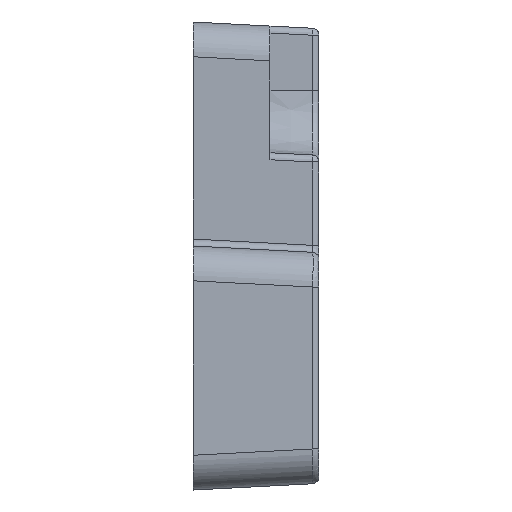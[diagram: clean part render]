
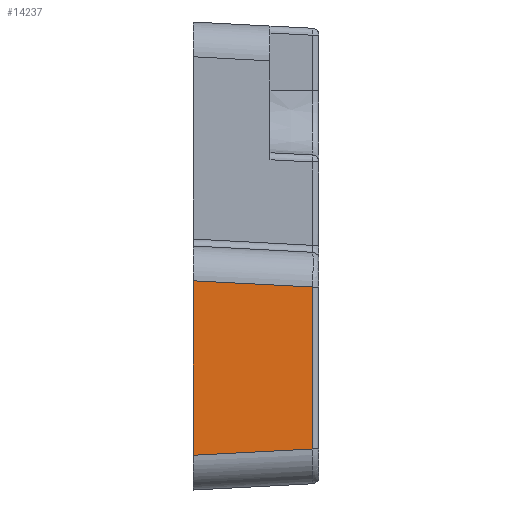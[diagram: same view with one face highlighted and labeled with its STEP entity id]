
A CAD part, left-side view. The second image highlights one B-rep face of the part: STEP entity #14237.
In plain terms, the highlighted planar face has unit normal (-0.999, -0.052, 0).
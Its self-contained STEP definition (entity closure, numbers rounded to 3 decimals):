
#8934=CARTESIAN_POINT('',(-89.7,24.047,18.917));
#8956=DIRECTION('',(0.,0.,-1.));
#8957=VECTOR('',#8956,4.627);
#8958=CARTESIAN_POINT('',(-89.7,24.047,23.544));
#8959=LINE('',#8958,#8957);
#9327=DIRECTION('',(0.052,-0.997,0.052));
#9328=VECTOR('',#9327,3.421);
#9329=CARTESIAN_POINT('',(-89.879,27.459,18.738));
#9330=LINE('',#9329,#9328);
#9331=DIRECTION('',(-0.052,0.997,0.052));
#9332=VECTOR('',#9331,3.421);
#9333=CARTESIAN_POINT('',(-89.7,24.047,23.544));
#9334=LINE('',#9333,#9332);
#9335=CARTESIAN_POINT('',(-89.879,27.459,18.738));
#9613=DIRECTION('',(0.,0.,1.));
#9614=VECTOR('',#9613,4.984);
#9615=CARTESIAN_POINT('',(-89.879,27.459,18.738));
#9616=LINE('',#9615,#9614);
#11178=VERTEX_POINT('',#9335);
#11179=CARTESIAN_POINT('',(-89.879,27.459,
23.723));
#11180=VERTEX_POINT('',#11179);
#11216=CARTESIAN_POINT('',(-89.7,24.047,
23.544));
#11217=VERTEX_POINT('',#11216);
#11222=VERTEX_POINT('',#8934);
#14224=CARTESIAN_POINT('',(-89.764,25.259,
18.785));
#14225=DIRECTION('',(-0.999,-0.052,0.));
#14226=DIRECTION('',(0.052,-0.999,0.));
#14227=AXIS2_PLACEMENT_3D('',#14224,#14225,#14226);
#14228=PLANE('',#14227);
#14230=ORIENTED_EDGE('',*,*,#14229,.F.);
#14232=ORIENTED_EDGE('',*,*,#14231,.T.);
#14233=ORIENTED_EDGE('',*,*,#14208,.F.);
#14234=ORIENTED_EDGE('',*,*,#12196,.T.);
#14235=EDGE_LOOP('',(#14230,#14232,#14233,#14234));
#14236=FACE_OUTER_BOUND('',#14235,.F.);
#12196=EDGE_CURVE('',#11217,#11222,#8959,.T.);
#14208=EDGE_CURVE('',#11217,#11180,#9334,.T.);
#14229=EDGE_CURVE('',#11178,#11222,#9330,.T.);
#14231=EDGE_CURVE('',#11178,#11180,#9616,.T.);
#14237=ADVANCED_FACE('',(#14236),#14228,.T.);
